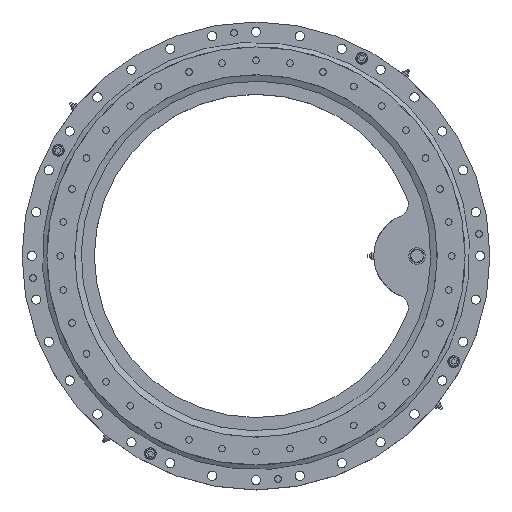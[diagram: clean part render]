
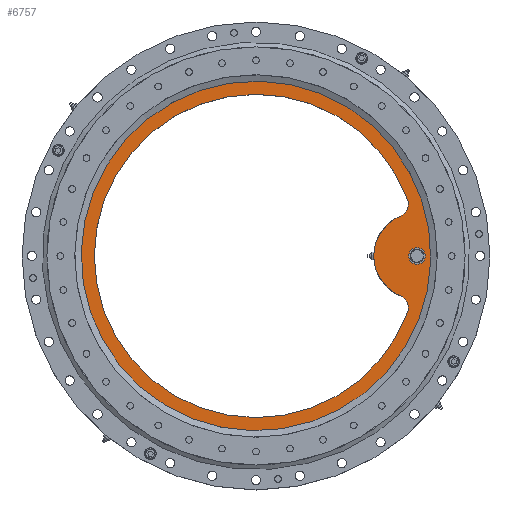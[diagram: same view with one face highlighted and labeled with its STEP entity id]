
A CAD part, top view. The second image highlights one B-rep face of the part: STEP entity #6757.
In plain terms, the highlighted planar face has unit normal (0, 0, 1).
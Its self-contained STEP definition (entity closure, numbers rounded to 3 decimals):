
#51=PLANE('',#7307);
#296=FACE_BOUND('',#961,.T.);
#297=FACE_BOUND('',#962,.T.);
#532=FACE_OUTER_BOUND('',#960,.T.);
#960=EDGE_LOOP('',(#4888));
#961=EDGE_LOOP('',(#4889));
#962=EDGE_LOOP('',(#4890,#4891,#4892,#4893));
#2452=CIRCLE('',#7149,247.);
#2456=CIRCLE('',#7154,66.);
#2556=CIRCLE('',#7301,20.);
#2559=CIRCLE('',#7306,20.);
#2560=CIRCLE('',#7308,269.);
#2561=CIRCLE('',#7309,10.5);
#2918=VERTEX_POINT('',#10074);
#2919=VERTEX_POINT('',#10075);
#2926=VERTEX_POINT('',#10090);
#2927=VERTEX_POINT('',#10092);
#3028=VERTEX_POINT('',#10577);
#3029=VERTEX_POINT('',#10579);
#3594=EDGE_CURVE('',#2918,#2919,#2452,.T.);
#3602=EDGE_CURVE('',#2926,#2927,#2456,.T.);
#3749=EDGE_CURVE('',#2918,#2927,#2556,.T.);
#3752=EDGE_CURVE('',#2926,#2919,#2559,.T.);
#3753=EDGE_CURVE('',#3028,#3028,#2560,.T.);
#3754=EDGE_CURVE('',#3029,#3029,#2561,.T.);
#4888=ORIENTED_EDGE('',*,*,#3753,.T.);
#4889=ORIENTED_EDGE('',*,*,#3754,.T.);
#4890=ORIENTED_EDGE('',*,*,#3594,.F.);
#4891=ORIENTED_EDGE('',*,*,#3749,.T.);
#4892=ORIENTED_EDGE('',*,*,#3602,.F.);
#4893=ORIENTED_EDGE('',*,*,#3752,.T.);
#6757=ADVANCED_FACE('',(#532,#296,#297),#51,.T.);
#7149=AXIS2_PLACEMENT_3D('',#10076,#7954,#7955);
#7154=AXIS2_PLACEMENT_3D('',#10093,#7968,#7969);
#7301=AXIS2_PLACEMENT_3D('',#10570,#8307,#8308);
#7306=AXIS2_PLACEMENT_3D('',#10575,#8317,#8318);
#7307=AXIS2_PLACEMENT_3D('',#10576,#8319,#8320);
#7308=AXIS2_PLACEMENT_3D('',#10578,#8321,#8322);
#7309=AXIS2_PLACEMENT_3D('',#10580,#8323,#8324);
#7954=DIRECTION('center_axis',(0.,0.,1.));
#7955=DIRECTION('ref_axis',(1.,0.,0.));
#7968=DIRECTION('center_axis',(0.,0.,-1.));
#7969=DIRECTION('ref_axis',(1.,0.,0.));
#8307=DIRECTION('center_axis',(0.,0.,-1.));
#8308=DIRECTION('ref_axis',(1.,0.,0.));
#8317=DIRECTION('center_axis',(0.,0.,-1.));
#8318=DIRECTION('ref_axis',(1.,0.,0.));
#8319=DIRECTION('center_axis',(0.,0.,1.));
#8320=DIRECTION('ref_axis',(1.,0.,0.));
#8321=DIRECTION('center_axis',(0.,0.,1.));
#8322=DIRECTION('ref_axis',(1.,0.,0.));
#8323=DIRECTION('center_axis',(0.,0.,-1.));
#8324=DIRECTION('ref_axis',(-1.,0.,0.));
#10074=CARTESIAN_POINT('',(256.874,87.955,457.578));
#10075=CARTESIAN_POINT('',(256.874,-84.601,457.578));
#10076=CARTESIAN_POINT('Origin',(25.433,1.677,457.578));
#10090=CARTESIAN_POINT('',(245.878,-59.175,457.578));
#10092=CARTESIAN_POINT('',(245.878,62.529,457.578));
#10093=CARTESIAN_POINT('Origin',(271.433,1.677,457.578));
#10570=CARTESIAN_POINT('Origin',(238.134,80.969,457.578));
#10575=CARTESIAN_POINT('Origin',(238.134,-77.615,457.578));
#10576=CARTESIAN_POINT('Origin',(25.433,1.677,457.578));
#10577=CARTESIAN_POINT('',(-243.567,1.677,457.578));
#10578=CARTESIAN_POINT('Origin',(25.433,1.677,457.578));
#10579=CARTESIAN_POINT('',(281.933,1.677,457.578));
#10580=CARTESIAN_POINT('Origin',(271.433,1.677,457.578));
